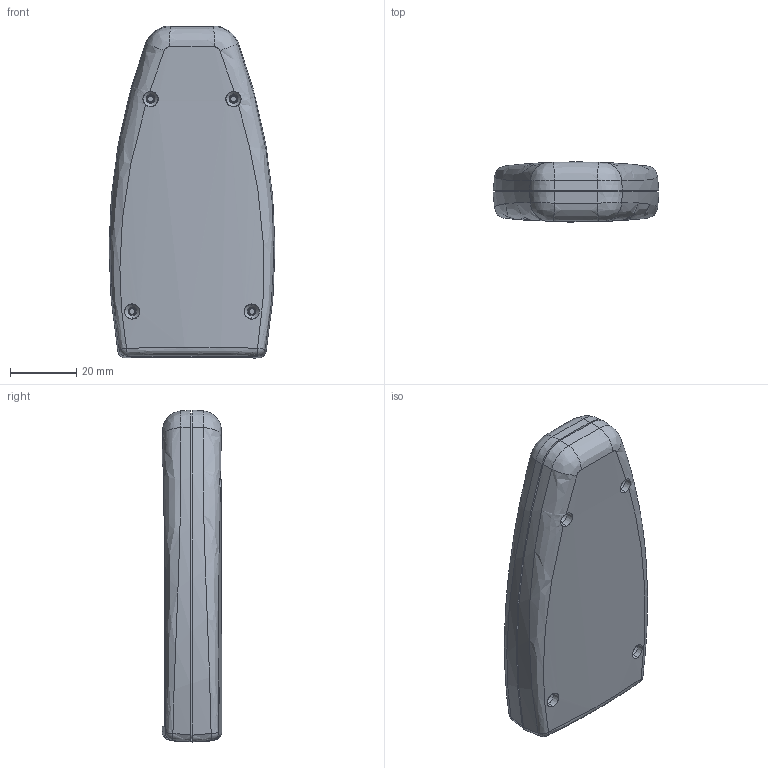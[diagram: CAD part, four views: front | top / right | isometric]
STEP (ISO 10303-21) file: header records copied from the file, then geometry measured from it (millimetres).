
FILE_DESCRIPTION (( 'STEP AP203' ), '1' );
FILE_NAME ('PH066.STEP', '2023-08-14T13:58:35', ( '' ), ( '' ), 'SwSTEP 2.0', 'SolidWorks 2021', '' );
FILE_SCHEMA (( 'CONFIG_CONTROL_DESIGN' ));
Length unit declared in the file: millimetre
Products named in the file (4): PH066
Assembly tree (3 placements, depth 2):
  PH066
    PH066
    PH066
    PH066
Bounding box: 50 x 17.99 x 100 mm (x, y, z)
Volume: 25138.7 mm3; surface area: 26162 mm2
Topology: 3 solids, 3 shells, 273 faces, 725 edges, 470 vertices
Faces by surface type: cone 98, plane 88, bspline 57, cylinder 26, sphere 4
Entity records: 11919 total; most frequent: CARTESIAN_POINT 5469, ORIENTED_EDGE 1450, DIRECTION 997, EDGE_CURVE 725, VERTEX_POINT 470, AXIS2_PLACEMENT_3D 383, B_SPLINE_CURVE_WITH_KNOTS 293, EDGE_LOOP 293
